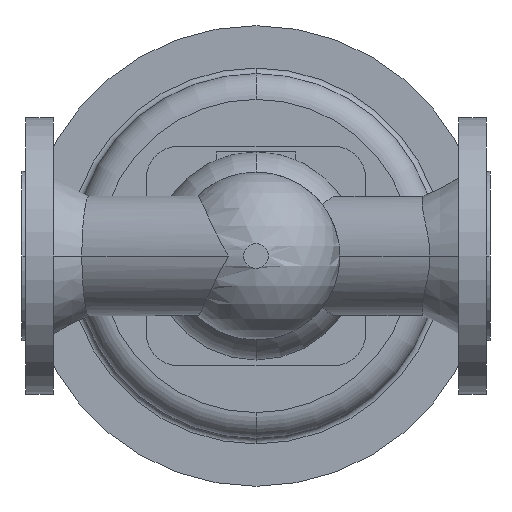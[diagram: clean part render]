
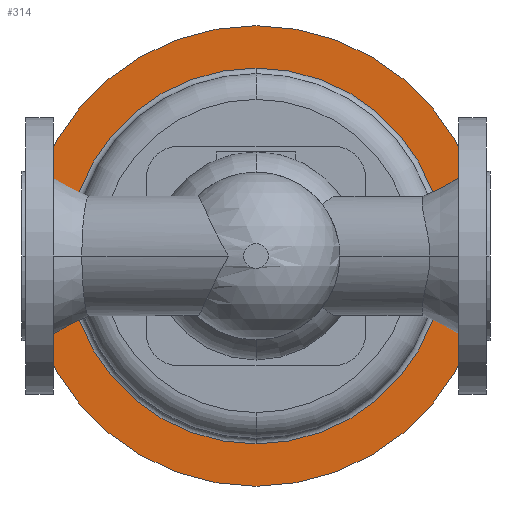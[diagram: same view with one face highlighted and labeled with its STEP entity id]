
A CAD part, front view. The second image highlights one B-rep face of the part: STEP entity #314.
In plain terms, the highlighted planar face has unit normal (0, -1, 0).
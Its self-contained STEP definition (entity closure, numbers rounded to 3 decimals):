
#314 = ADVANCED_FACE( '', ( #745, #746 ), #747, .T. );
#745 = FACE_OUTER_BOUND( '', #1185, .T. );
#746 = FACE_BOUND( '', #1186, .T. );
#747 = PLANE( '', #1187 );
#1185 = EDGE_LOOP( '', ( #2745, #2746 ) );
#1186 = EDGE_LOOP( '', ( #2747, #2748, #2749 ) );
#1187 = AXIS2_PLACEMENT_3D( '', #2750, #2751, #2752 );
#2745 = ORIENTED_EDGE( '', *, *, #3127, .F. );
#2746 = ORIENTED_EDGE( '', *, *, #3298, .F. );
#2747 = ORIENTED_EDGE( '', *, *, #3296, .T. );
#2748 = ORIENTED_EDGE( '', *, *, #3134, .T. );
#2749 = ORIENTED_EDGE( '', *, *, #3297, .T. );
#2750 = CARTESIAN_POINT( '', ( 240.5, 436.5, 0. ) );
#2751 = DIRECTION( '', ( 0., -1., 0. ) );
#2752 = DIRECTION( '', ( -1., 0., 0. ) );
#3127 = EDGE_CURVE( '', #3848, #3851, #3852, .T. );
#3134 = EDGE_CURVE( '', #3857, #3863, #3865, .T. );
#3296 = EDGE_CURVE( '', #4134, #3857, #4135, .T. );
#3297 = EDGE_CURVE( '', #3863, #4134, #4136, .T. );
#3298 = EDGE_CURVE( '', #3851, #3848, #4137, .T. );
#3848 = VERTEX_POINT( '', #5588 );
#3851 = VERTEX_POINT( '', #5592 );
#3852 = CIRCLE( '', #5593, 125. );
#3857 = VERTEX_POINT( '', #5599 );
#3863 = VERTEX_POINT( '', #5605 );
#3865 = CIRCLE( '', #5607, 102. );
#4134 = VERTEX_POINT( '', #5945 );
#4135 = CIRCLE( '', #5946, 102. );
#4136 = CIRCLE( '', #5947, 102. );
#4137 = CIRCLE( '', #5948, 125. );
#5588 = CARTESIAN_POINT( '', ( 252., 436.5, 0. ) );
#5592 = CARTESIAN_POINT( '', ( 2., 436.5, 0. ) );
#5593 = AXIS2_PLACEMENT_3D( '', #6571, #6572, #6573 );
#5599 = CARTESIAN_POINT( '', ( 127., 436.5, -102. ) );
#5605 = CARTESIAN_POINT( '', ( 127., 436.5, 102. ) );
#5607 = AXIS2_PLACEMENT_3D( '', #6590, #6591, #6592 );
#5945 = CARTESIAN_POINT( '', ( 229., 436.5, 0. ) );
#5946 = AXIS2_PLACEMENT_3D( '', #6938, #6939, #6940 );
#5947 = AXIS2_PLACEMENT_3D( '', #6941, #6942, #6943 );
#5948 = AXIS2_PLACEMENT_3D( '', #6944, #6945, #6946 );
#6571 = CARTESIAN_POINT( '', ( 127., 436.5, 0. ) );
#6572 = DIRECTION( '', ( 0., 1., 0. ) );
#6573 = DIRECTION( '', ( 1., 0., 0. ) );
#6590 = CARTESIAN_POINT( '', ( 127., 436.5, 0. ) );
#6591 = DIRECTION( '', ( 0., 1., 0. ) );
#6592 = DIRECTION( '', ( 1., 0., 0. ) );
#6938 = CARTESIAN_POINT( '', ( 127., 436.5, 0. ) );
#6939 = DIRECTION( '', ( 0., 1., 0. ) );
#6940 = DIRECTION( '', ( 1., 0., 0. ) );
#6941 = CARTESIAN_POINT( '', ( 127., 436.5, 0. ) );
#6942 = DIRECTION( '', ( 0., 1., 0. ) );
#6943 = DIRECTION( '', ( 1., 0., 0. ) );
#6944 = CARTESIAN_POINT( '', ( 127., 436.5, 0. ) );
#6945 = DIRECTION( '', ( 0., 1., 0. ) );
#6946 = DIRECTION( '', ( 1., 0., 0. ) );
